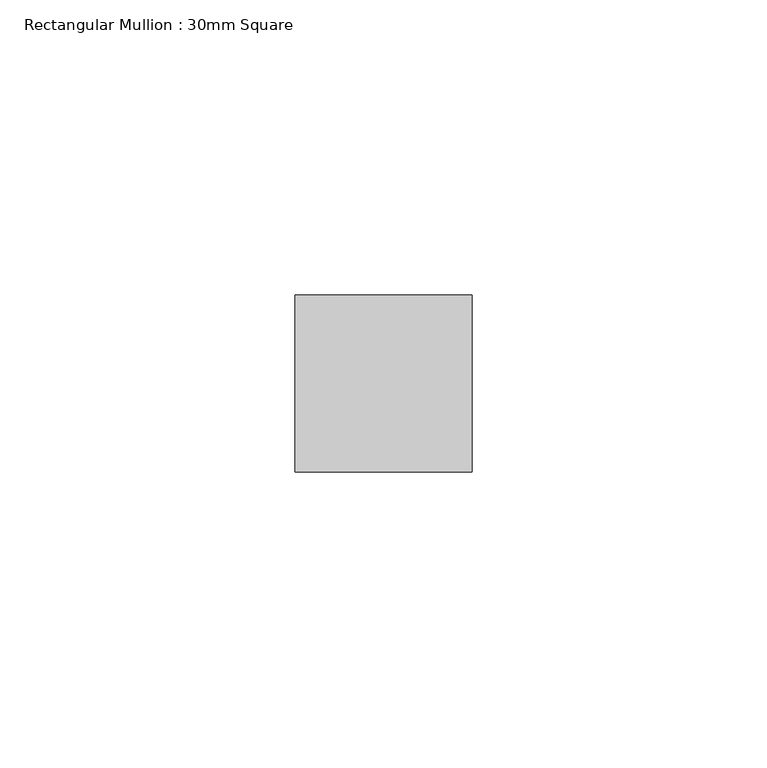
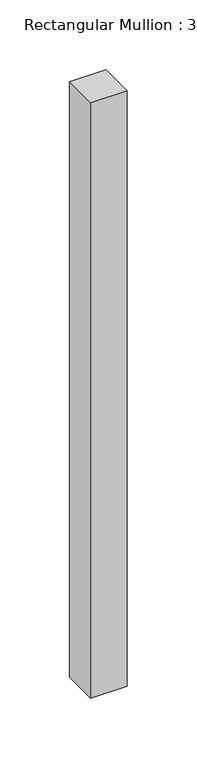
"""IFC4 building model written with IfcOpenShell, lengths in millimetres: member geometry, Rectangular Mullion : 30mm Square."""

from ifc_helpers import new_model, si_unit, frame, origin, place, context, project, spatial, polyline, outline, extrude, source, transform, mapped, element, save


def rectangular_mullion_30mm_square_31ca1cc0(model_context):
    return source(origin(), model_context, "Body", "SweptSolid", [
        extrude(outline(polyline([(15.0, 15.0), (15.0, -15.0), (-15.0, -15.0), (-15.0, 15.0), (15.0, 15.0)])), frame((0.0, 0.0, -520.0), z_axis=(0.0, 0.0, 1.0), x_axis=(1.0, 0.0, 0.0)), (0.0, 0.0, 1.0), 520.0),
    ])


if __name__ == "__main__":
    model = new_model("IFC4")
    model_context = context("Model", 3, world=origin())
    ifc_project = project(units=[si_unit("LENGTHUNIT", "METRE", prefix="MILLI")], contexts=[model_context])
    site = spatial("IfcSite", under=ifc_project)
    building = spatial("IfcBuilding", under=site)
    placement = place(None, origin())
    rectangular_mullion_30mm_square_shape = rectangular_mullion_30mm_square_31ca1cc0(model_context)
    element("IfcMember", 1, ObjectType="Rectangular Mullion : 30mm Square", at=placement, inside=building, context=model_context, shape_type="MappedRepresentation", body=[
        mapped(rectangular_mullion_30mm_square_shape, transform((0.0, 0.0, 0.0), x_axis=(1.0, 0.0, 0.0), y_axis=(0.0, 1.0, 0.0), z_axis=(0.0, 0.0, 1.0))),
    ])
    save(model, "model.ifc")
